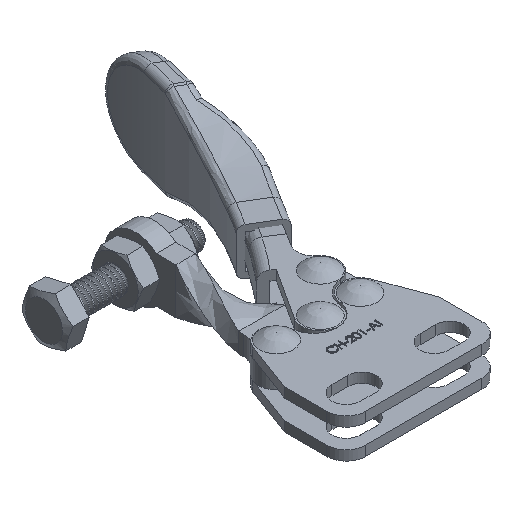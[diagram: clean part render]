
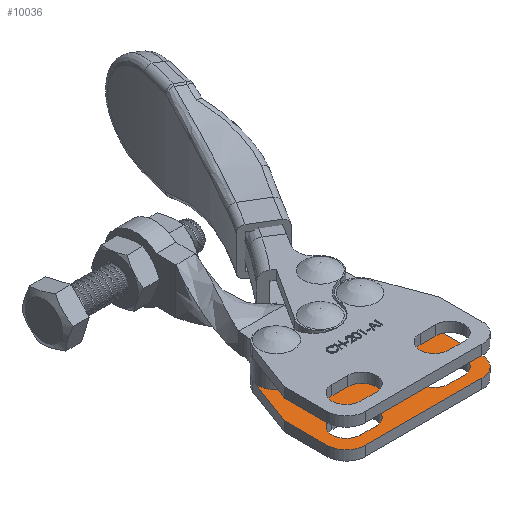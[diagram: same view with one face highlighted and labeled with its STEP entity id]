
A CAD part, isometric view. The second image highlights one B-rep face of the part: STEP entity #10036.
In plain terms, the highlighted planar face has unit normal (0, 0, 1).
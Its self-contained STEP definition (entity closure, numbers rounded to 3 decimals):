
#221=FACE_BOUND('',#1987,.T.);
#222=FACE_BOUND('',#1988,.T.);
#223=FACE_BOUND('',#1989,.T.);
#224=FACE_BOUND('',#1990,.T.);
#366=PLANE('',#10921);
#1384=FACE_OUTER_BOUND('',#1986,.T.);
#1986=EDGE_LOOP('',(#8436,#8437,#8438,#8439,#8440,#8441,#8442,#8443,#8444,
#8445));
#1987=EDGE_LOOP('',(#8446,#8447));
#1988=EDGE_LOOP('',(#8448,#8449,#8450,#8451));
#1989=EDGE_LOOP('',(#8452,#8453,#8454,#8455));
#1990=EDGE_LOOP('',(#8456,#8457));
#2734=LINE('',#35267,#3545);
#2735=LINE('',#35271,#3546);
#2736=LINE('',#35273,#3547);
#2737=LINE('',#35281,#3548);
#2738=LINE('',#35283,#3549);
#2739=LINE('',#35286,#3550);
#2740=LINE('',#35289,#3551);
#2741=LINE('',#35291,#3552);
#2742=LINE('',#35294,#3553);
#3545=VECTOR('',#12524,1000.);
#3546=VECTOR('',#12527,1000.);
#3547=VECTOR('',#12528,1000.);
#3548=VECTOR('',#12535,1000.);
#3549=VECTOR('',#12536,1000.);
#3550=VECTOR('',#12539,1000.);
#3551=VECTOR('',#12542,1000.);
#3552=VECTOR('',#12543,1000.);
#3553=VECTOR('',#12546,1000.);
#4044=CIRCLE('',#10889,2.2);
#4046=CIRCLE('',#10892,2.2);
#4057=CIRCLE('',#10906,1.5);
#4058=CIRCLE('',#10907,1.5);
#4061=CIRCLE('',#10911,1.5);
#4062=CIRCLE('',#10912,1.5);
#4070=CIRCLE('',#10922,3.);
#4071=CIRCLE('',#10923,2.8);
#4072=CIRCLE('',#10924,3.65);
#4073=CIRCLE('',#10925,2.8);
#4074=CIRCLE('',#10926,3.);
#4075=CIRCLE('',#10927,2.2);
#4076=CIRCLE('',#10928,2.2);
#4624=VERTEX_POINT('',#33771);
#4625=VERTEX_POINT('',#33773);
#4628=VERTEX_POINT('',#33780);
#4629=VERTEX_POINT('',#33782);
#4640=VERTEX_POINT('',#33810);
#4641=VERTEX_POINT('',#33812);
#4644=VERTEX_POINT('',#33820);
#4645=VERTEX_POINT('',#33822);
#4836=VERTEX_POINT('',#35265);
#4837=VERTEX_POINT('',#35266);
#4838=VERTEX_POINT('',#35268);
#4839=VERTEX_POINT('',#35270);
#4840=VERTEX_POINT('',#35272);
#4841=VERTEX_POINT('',#35274);
#4842=VERTEX_POINT('',#35276);
#4843=VERTEX_POINT('',#35278);
#4844=VERTEX_POINT('',#35280);
#4845=VERTEX_POINT('',#35282);
#4846=VERTEX_POINT('',#35285);
#4847=VERTEX_POINT('',#35287);
#4848=VERTEX_POINT('',#35290);
#4849=VERTEX_POINT('',#35292);
#5900=EDGE_CURVE('',#4625,#4624,#4044,.T.);
#5904=EDGE_CURVE('',#4629,#4628,#4046,.T.);
#5919=EDGE_CURVE('',#4640,#4641,#4057,.T.);
#5920=EDGE_CURVE('',#4641,#4640,#4058,.T.);
#5924=EDGE_CURVE('',#4644,#4645,#4061,.T.);
#5925=EDGE_CURVE('',#4645,#4644,#4062,.T.);
#6118=EDGE_CURVE('',#4836,#4837,#2734,.T.);
#6119=EDGE_CURVE('',#4836,#4838,#4070,.T.);
#6120=EDGE_CURVE('',#4838,#4839,#2735,.T.);
#6121=EDGE_CURVE('',#4839,#4840,#2736,.T.);
#6122=EDGE_CURVE('',#4840,#4841,#4071,.T.);
#6123=EDGE_CURVE('',#4841,#4842,#4072,.T.);
#6124=EDGE_CURVE('',#4842,#4843,#4073,.T.);
#6125=EDGE_CURVE('',#4843,#4844,#2737,.T.);
#6126=EDGE_CURVE('',#4844,#4845,#2738,.T.);
#6127=EDGE_CURVE('',#4845,#4837,#4074,.T.);
#6128=EDGE_CURVE('',#4624,#4846,#2739,.T.);
#6129=EDGE_CURVE('',#4846,#4847,#4075,.T.);
#6130=EDGE_CURVE('',#4847,#4625,#2740,.T.);
#6131=EDGE_CURVE('',#4628,#4848,#2741,.T.);
#6132=EDGE_CURVE('',#4848,#4849,#4076,.T.);
#6133=EDGE_CURVE('',#4849,#4629,#2742,.T.);
#8436=ORIENTED_EDGE('',*,*,#6118,.F.);
#8437=ORIENTED_EDGE('',*,*,#6119,.T.);
#8438=ORIENTED_EDGE('',*,*,#6120,.T.);
#8439=ORIENTED_EDGE('',*,*,#6121,.T.);
#8440=ORIENTED_EDGE('',*,*,#6122,.T.);
#8441=ORIENTED_EDGE('',*,*,#6123,.T.);
#8442=ORIENTED_EDGE('',*,*,#6124,.T.);
#8443=ORIENTED_EDGE('',*,*,#6125,.T.);
#8444=ORIENTED_EDGE('',*,*,#6126,.T.);
#8445=ORIENTED_EDGE('',*,*,#6127,.T.);
#8446=ORIENTED_EDGE('',*,*,#5920,.F.);
#8447=ORIENTED_EDGE('',*,*,#5919,.F.);
#8448=ORIENTED_EDGE('',*,*,#6128,.T.);
#8449=ORIENTED_EDGE('',*,*,#6129,.T.);
#8450=ORIENTED_EDGE('',*,*,#6130,.T.);
#8451=ORIENTED_EDGE('',*,*,#5900,.T.);
#8452=ORIENTED_EDGE('',*,*,#6131,.T.);
#8453=ORIENTED_EDGE('',*,*,#6132,.T.);
#8454=ORIENTED_EDGE('',*,*,#6133,.T.);
#8455=ORIENTED_EDGE('',*,*,#5904,.T.);
#8456=ORIENTED_EDGE('',*,*,#5925,.F.);
#8457=ORIENTED_EDGE('',*,*,#5924,.F.);
#10036=ADVANCED_FACE('',(#1384,#221,#222,#223,#224),#366,.F.);
#10889=AXIS2_PLACEMENT_3D('',#33774,#12379,#12380);
#10892=AXIS2_PLACEMENT_3D('',#33783,#12387,#12388);
#10906=AXIS2_PLACEMENT_3D('',#33813,#12419,#12420);
#10907=AXIS2_PLACEMENT_3D('',#33814,#12421,#12422);
#10911=AXIS2_PLACEMENT_3D('',#33823,#12430,#12431);
#10912=AXIS2_PLACEMENT_3D('',#33824,#12432,#12433);
#10921=AXIS2_PLACEMENT_3D('',#35264,#12522,#12523);
#10922=AXIS2_PLACEMENT_3D('',#35269,#12525,#12526);
#10923=AXIS2_PLACEMENT_3D('',#35275,#12529,#12530);
#10924=AXIS2_PLACEMENT_3D('',#35277,#12531,#12532);
#10925=AXIS2_PLACEMENT_3D('',#35279,#12533,#12534);
#10926=AXIS2_PLACEMENT_3D('',#35284,#12537,#12538);
#10927=AXIS2_PLACEMENT_3D('',#35288,#12540,#12541);
#10928=AXIS2_PLACEMENT_3D('',#35293,#12544,#12545);
#12379=DIRECTION('center_axis',(0.,0.,-1.));
#12380=DIRECTION('ref_axis',(-1.,0.,0.));
#12387=DIRECTION('center_axis',(0.,0.,-1.));
#12388=DIRECTION('ref_axis',(-1.,0.,0.));
#12419=DIRECTION('center_axis',(0.,0.,1.));
#12420=DIRECTION('ref_axis',(-1.,0.,0.));
#12421=DIRECTION('center_axis',(0.,0.,1.));
#12422=DIRECTION('ref_axis',(-1.,0.,0.));
#12430=DIRECTION('center_axis',(0.,0.,1.));
#12431=DIRECTION('ref_axis',(1.,0.,0.));
#12432=DIRECTION('center_axis',(0.,0.,1.));
#12433=DIRECTION('ref_axis',(1.,0.,0.));
#12522=DIRECTION('center_axis',(0.,0.,-1.));
#12523=DIRECTION('ref_axis',(1.,0.,0.));
#12524=DIRECTION('',(-1.,0.,0.));
#12525=DIRECTION('center_axis',(0.,0.,1.));
#12526=DIRECTION('ref_axis',(-1.,0.,0.));
#12527=DIRECTION('',(0.,1.,0.));
#12528=DIRECTION('',(-0.351,0.936,0.));
#12529=DIRECTION('center_axis',(0.,0.,1.));
#12530=DIRECTION('ref_axis',(1.,0.,0.));
#12531=DIRECTION('center_axis',(0.,0.,-1.));
#12532=DIRECTION('ref_axis',(1.,0.,0.));
#12533=DIRECTION('center_axis',(0.,0.,1.));
#12534=DIRECTION('ref_axis',(1.,0.,0.));
#12535=DIRECTION('',(-0.351,-0.936,0.));
#12536=DIRECTION('',(0.,-1.,0.));
#12537=DIRECTION('center_axis',(0.,0.,1.));
#12538=DIRECTION('ref_axis',(-1.,0.,0.));
#12539=DIRECTION('',(-1.,0.,0.));
#12540=DIRECTION('center_axis',(0.,0.,-1.));
#12541=DIRECTION('ref_axis',(-1.,0.,0.));
#12542=DIRECTION('',(1.,0.,0.));
#12543=DIRECTION('',(-1.,0.,0.));
#12544=DIRECTION('center_axis',(0.,0.,-1.));
#12545=DIRECTION('ref_axis',(-1.,0.,0.));
#12546=DIRECTION('',(1.,0.,0.));
#33771=CARTESIAN_POINT('',(-17.45,-6.25,-3.));
#33773=CARTESIAN_POINT('',(-17.45,-1.85,-3.));
#33774=CARTESIAN_POINT('Origin',(-17.45,-4.05,-3.));
#33780=CARTESIAN_POINT('',(-3.95,-6.25,-3.));
#33782=CARTESIAN_POINT('',(-3.95,-1.85,-3.));
#33783=CARTESIAN_POINT('Origin',(-3.95,-4.05,-3.));
#33810=CARTESIAN_POINT('',(-4.,8.2,-3.));
#33812=CARTESIAN_POINT('',(-7.,8.2,-3.));
#33813=CARTESIAN_POINT('Origin',(-5.5,8.2,-3.));
#33814=CARTESIAN_POINT('Origin',(-5.5,8.2,-3.));
#33820=CARTESIAN_POINT('',(-16.8,8.2,-3.));
#33822=CARTESIAN_POINT('',(-19.8,8.2,-3.));
#33823=CARTESIAN_POINT('Origin',(-18.3,8.2,-3.));
#33824=CARTESIAN_POINT('Origin',(-18.3,8.2,-3.));
#35264=CARTESIAN_POINT('Origin',(-5.5,8.2,-3.));
#35265=CARTESIAN_POINT('',(-3.,-8.,-3.));
#35266=CARTESIAN_POINT('',(-20.8,-8.,-3.));
#35267=CARTESIAN_POINT('',(0.,-8.,-3.));
#35268=CARTESIAN_POINT('',(0.,-5.,-3.));
#35269=CARTESIAN_POINT('Origin',(-3.,-5.,-3.));
#35270=CARTESIAN_POINT('',(0.,1.5,-3.));
#35271=CARTESIAN_POINT('',(0.,0.,-3.));
#35272=CARTESIAN_POINT('',(-2.878,9.182,-3.));
#35273=CARTESIAN_POINT('',(0.,1.5,-3.));
#35274=CARTESIAN_POINT('',(-8.26,8.673,-3.));
#35275=CARTESIAN_POINT('Origin',(-5.5,8.2,-3.));
#35276=CARTESIAN_POINT('',(-15.505,8.369,-3.));
#35277=CARTESIAN_POINT('Origin',(-11.9,8.94,-3.));
#35278=CARTESIAN_POINT('',(-20.922,9.182,-3.));
#35279=CARTESIAN_POINT('Origin',(-18.3,8.2,-3.));
#35280=CARTESIAN_POINT('',(-23.8,1.5,-3.));
#35281=CARTESIAN_POINT('',(-23.8,1.5,-3.));
#35282=CARTESIAN_POINT('',(-23.8,-5.,-3.));
#35283=CARTESIAN_POINT('',(-23.8,0.,-3.));
#35284=CARTESIAN_POINT('Origin',(-20.8,-5.,-3.));
#35285=CARTESIAN_POINT('',(-19.85,-6.25,-3.));
#35286=CARTESIAN_POINT('',(-5.5,-6.25,-3.));
#35287=CARTESIAN_POINT('',(-19.85,-1.85,-3.));
#35288=CARTESIAN_POINT('Origin',(-19.85,-4.05,-3.));
#35289=CARTESIAN_POINT('',(-5.5,-1.85,-3.));
#35290=CARTESIAN_POINT('',(-6.35,-6.25,-3.));
#35291=CARTESIAN_POINT('',(-5.5,-6.25,-3.));
#35292=CARTESIAN_POINT('',(-6.35,-1.85,-3.));
#35293=CARTESIAN_POINT('Origin',(-6.35,-4.05,-3.));
#35294=CARTESIAN_POINT('',(-5.5,-1.85,-3.));
